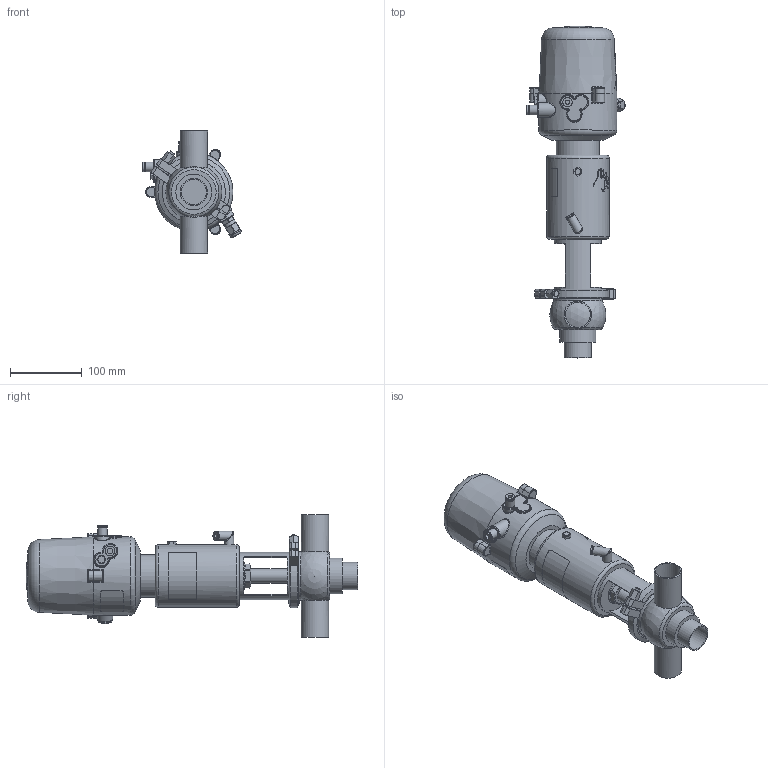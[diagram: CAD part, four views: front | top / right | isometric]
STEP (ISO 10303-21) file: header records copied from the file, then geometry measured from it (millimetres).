
FILE_DESCRIPTION (( 'STEP AP214' ), '1' );
FILE_NAME ('INNOVA N T W OD 1½ T1 AS NC & C-TOP S_10.240.16.0058.STEP', '2024-08-06T08:17:02', ( '' ), ( '' ), 'SwSTEP 2.0', 'SolidWorks 2023', '' );
FILE_SCHEMA (( 'AUTOMOTIVE_DESIGN' ));
Length unit declared in the file: millimetre
Products named in the file (7): 10.240.15.0003_OD 1½"; INNOVA N T W OD 1½ T1 AS NC & C-TOP S_10.240.16.0058; 10.240.15.0010_DN 040; 10.426.15.0001_C-TOP S - 1 EV; 10.240.15.0001_DN 040; 10.240.15.0014_T1 AS P0; 10.240.15.0017_Estàndard
Assembly tree (6 placements, depth 2):
  INNOVA N T W OD 1½ T1 AS NC & C-TOP S_10.240.16.0058
    10.240.15.0003_OD 1½"
    10.240.15.0010_DN 040
    10.240.15.0014_T1 AS P0
    10.240.15.0017_Estàndard
    10.426.15.0001_C-TOP S - 1 EV
    10.240.15.0001_DN 040
Bounding box: 136.88 x 462.5 x 170 mm (x, y, z)
Volume: 2542993 mm3; surface area: 234498.6 mm2
Topology: 6 solids, 6 shells, 1105 faces, 2656 edges, 1772 vertices
Faces by surface type: plane 376, cylinder 332, cone 191, bspline 160, torus 39, sphere 7
Full cylindrical faces by diameter (mm): 0.371 x17, 0.512 x16, 0.658 x16, 0.795 x16, 0.94 x15, 1.098 x15, 1.241 x13, 1.382 x13, 1.523 x11, 1.669 x10, 2.201 x1, 4 x2, 5.5 x2, 6 x2, 6.15 x1, 8 x4, 8.5 x1, 10 x1, 10.5 x1, 11 x2, 12.5 x3, 13 x2, 13.5 x2, 16 x1, 17 x3, 20 x3, 20.5 x1, 22 x2, 31 x1, 34.5 x3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
Entity records: 56820 total; most frequent: CARTESIAN_POINT 26759, ORIENTED_EDGE 4506, DIRECTION 3619, EDGE_CURVE 2253, VERTEX_POINT 1600, EDGE_LOOP 1555, AXIS2_PLACEMENT_3D 1481, FACE_OUTER_BOUND 1319
